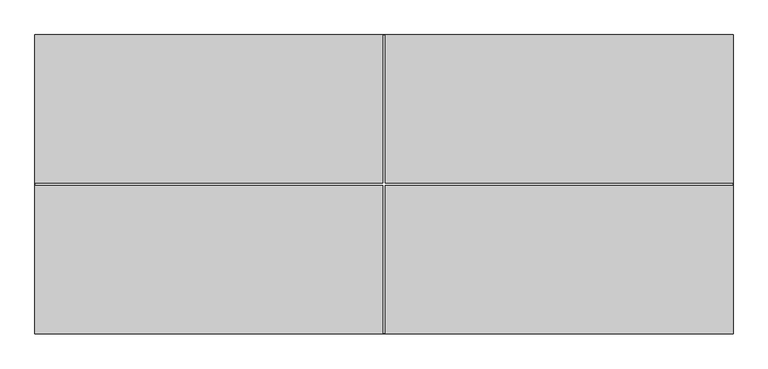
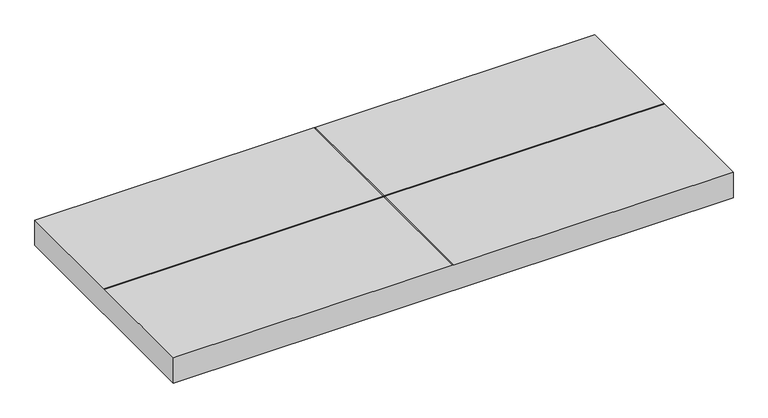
"""IFC4 building model written with IfcOpenShell, lengths in millimetres: furniture geometry, Steelcase - Universal Storage - Cushion Top - for Lateral File : Flush Steel Front - 18D x 42W."""

from ifc_helpers import new_model, si_unit, frame, origin, place, context, project, spatial, polyline, outline, extrude, source, transform, mapped, element, save


def furniture_2d44353c(model_context):
    return source(origin(), model_context, "Body", "SweptSolid", [
        extrude(outline(polyline([(1066.8, 0.0), (1066.8, -457.2), (0.0, -457.2), (0.0, 0.0), (1066.8, 0.0)]), holes=[polyline([(0.889, -227.711), (0.889, -229.489), (532.511, -229.489), (532.511, -456.3110015), (534.289, -456.3110015), (534.289, -229.489), (1065.9109651, -229.489), (1065.9109651, -227.711), (534.289, -227.711), (534.289, -0.889), (532.511, -0.889), (532.511, -227.711), (0.889, -227.711)])]), frame((0.0, 0.0, 533.4), z_axis=(0.0, 0.0, 1.0), x_axis=(1.0, 0.0, 0.0)), (0.0, 0.0, 1.0), 50.7999971),
    ])


if __name__ == "__main__":
    model = new_model("IFC4")
    model_context = context("Model", 3, world=origin())
    ifc_project = project(units=[si_unit("LENGTHUNIT", "METRE", prefix="MILLI")], contexts=[model_context])
    site = spatial("IfcSite", under=ifc_project)
    building = spatial("IfcBuilding", under=site)
    placement = place(None, origin())
    furniture_shape = furniture_2d44353c(model_context)
    element("IfcFurniture", 1, ObjectType="Steelcase - Universal Storage - Cushion Top - for Lateral File : Flush Steel Front - 18D x 42W", at=placement, inside=building, context=model_context, shape_type="MappedRepresentation", body=[
        mapped(furniture_shape, transform((0.0, 0.0, 0.0), x_axis=(1.0, 0.0, 0.0), y_axis=(0.0, 1.0, 0.0), z_axis=(0.0, 0.0, 1.0))),
    ])
    save(model, "model.ifc")
